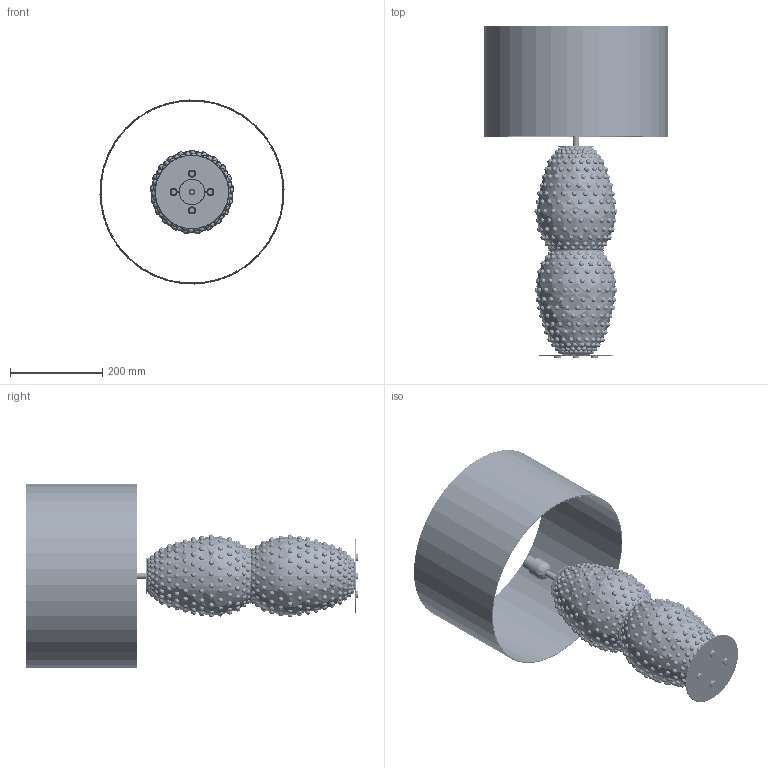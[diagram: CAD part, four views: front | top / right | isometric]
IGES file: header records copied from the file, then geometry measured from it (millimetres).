
Start section: SolidWorks IGES file using analytic representation for surfaces
Global section: file name: D:\3d novedades 2024\3D SS24\NAC135_2_B_CACTUS.IGS; native system: SolidWorks 2018; preprocessor: SolidWorks 2018; author: Agus; date: 240205.125432; units: millimetre
Bounding box: 399.87 x 721 x 399.87 mm (x, y, z)
Surface area: 1363034.3 mm2 (no closed solid volume)
Topology: 0 solids, 0 shells, 1347 faces, 7112 edges, 5852 vertices
Faces by surface type: revolution 1288, bspline 59
